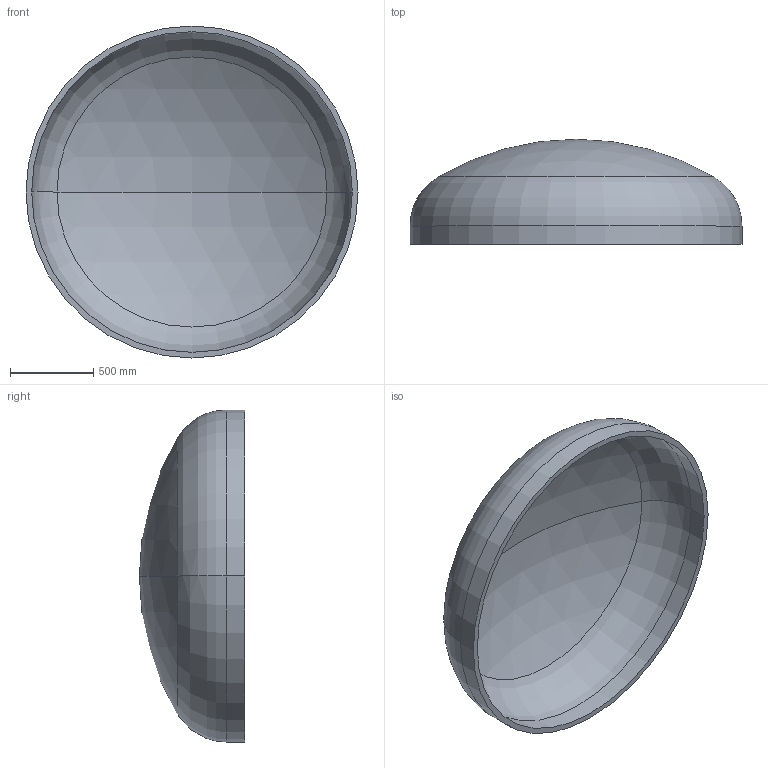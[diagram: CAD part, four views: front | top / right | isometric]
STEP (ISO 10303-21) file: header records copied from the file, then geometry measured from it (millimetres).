
FILE_DESCRIPTION (( 'STEP AP203' ), '1' );
FILE_NAME ('DIN 28013 Korbbogenform_-_Boden DIN 28013 - 2000 x 110 - I - s=34.step', '2016-07-01T13:48:20', ( '' ), ( '' ), 'SwSTEP 2.0', 'SolidWorks 2013', '' );
FILE_SCHEMA (( 'CONFIG_CONTROL_DESIGN' ));
Length unit declared in the file: millimetre
Products named in the file (1): DIN 28013 Korbbogenform_-_Boden DIN 28013 - 2000 x 110 - I - s=34
Bounding box: 2000 x 633.25 x 2000 mm (x, y, z)
Volume: 167941023.1 mm3; surface area: 10091298.2 mm2
Topology: 1 solids, 1 shells, 13 faces, 24 edges, 14 vertices
Faces by surface type: torus 4, cylinder 4, sphere 4, plane 1
Entity records: 407 total; most frequent: DIRECTION 72, CARTESIAN_POINT 52, ORIENTED_EDGE 48, AXIS2_PLACEMENT_3D 34, EDGE_CURVE 24, CIRCLE 20, VERTEX_POINT 14, EDGE_LOOP 14
